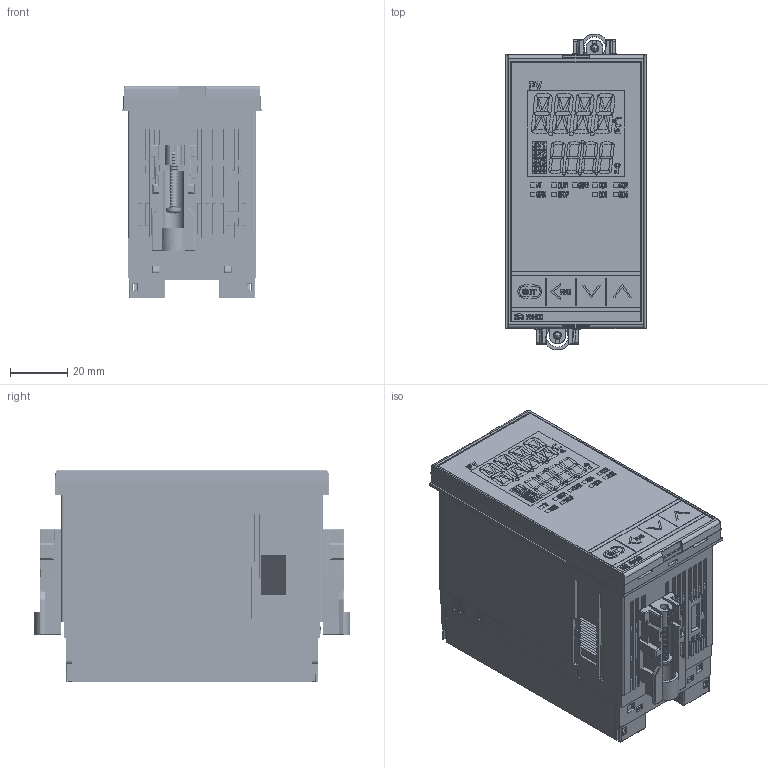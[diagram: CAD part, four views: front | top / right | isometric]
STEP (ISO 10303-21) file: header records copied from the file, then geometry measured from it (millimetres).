
FILE_DESCRIPTION (( 'STEP AP203' ), '1' );
FILE_NAME ('YIRB400-21(0).STEP', '2019-04-24T03:05:25', ( '' ), ( '' ), 'SwSTEP 2.0', 'SolidWorks 2018', '' );
FILE_SCHEMA (( 'CONFIG_CONTROL_DESIGN' ));
Products named in the file (4): RB410(基本設計）_WEB; KFB400-36(1)_WEB; KRZ400-520_WEB; YIRB400-21(0)
Assembly tree (4 placements, depth 2):
  YIRB400-21(0)
    RB410(基本設計）_WEB
    KFB400-36(1)_WEB
    KRZ400-520_WEB  x2
Bounding box: 49.2 x 110.6 x 74.15 mm (x, y, z)
Volume: 264127.8 mm3; surface area: 78558.2 mm2
Topology: 11 solids, 17 shells, 10173 faces, 27547 edges, 17920 vertices
Faces by surface type: plane 6321, bspline 2388, cylinder 1244, cone 176, sphere 32, torus 12
Entity records: 358401 total; most frequent: CARTESIAN_POINT 139272, ORIENTED_EDGE 52012, DIRECTION 34300, EDGE_CURVE 26006, VERTEX_POINT 16971, VECTOR 16774, LINE 16774, EDGE_LOOP 10161
